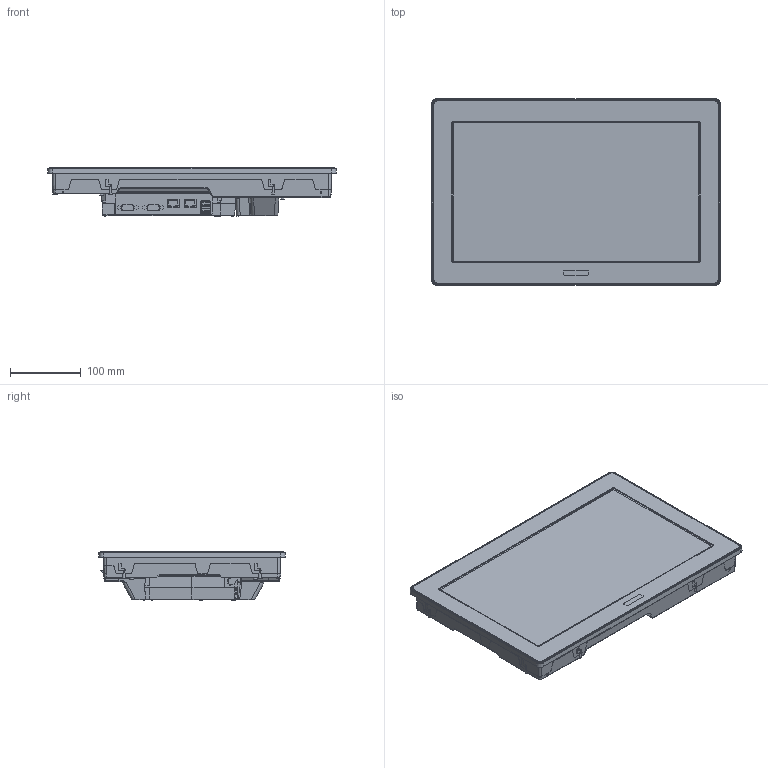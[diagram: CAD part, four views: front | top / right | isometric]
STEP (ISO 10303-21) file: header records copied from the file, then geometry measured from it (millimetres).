
FILE_DESCRIPTION(/* description */ (''),/* implementation_level */ '2;1');
FILE_NAME(/* name */ 'C:\Users\SESA32241\Desktop\Kabuto15W_box.stp',/* time_stamp */ '2020-03-09T10:27:31+09:00',/* author */ ('SESA32241'),/* organization */ (''),/* preprocessor_version */ 'ST-DEVELOPER v16.1',/* originating_system */ 'Autodesk Inventor 2016',/* authorisation */ '');
FILE_SCHEMA (('AUTOMOTIVE_DESIGN { 1 0 10303 214 3 1 1 }'));
Products named in the file (1): Part5
Bounding box: 408 x 264 x 68.55 mm (x, y, z)
Volume: 4606799.5 mm3; surface area: 372784.6 mm2
Topology: 2 solids, 3 shells, 1558 faces, 4289 edges, 2807 vertices
Faces by surface type: plane 1054, cylinder 379, bspline 50, cone 45, torus 25, sphere 5
Full cylindrical faces by diameter (mm): 1.974 x1, 2 x3, 3 x6, 5.6 x4, 6 x4
Entity records: 55549 total; most frequent: CARTESIAN_POINT 15790, ORIENTED_EDGE 8534, DIRECTION 7905, EDGE_CURVE 4267, LINE 3227, VECTOR 3227, VERTEX_POINT 2804, AXIS2_PLACEMENT_3D 2339
